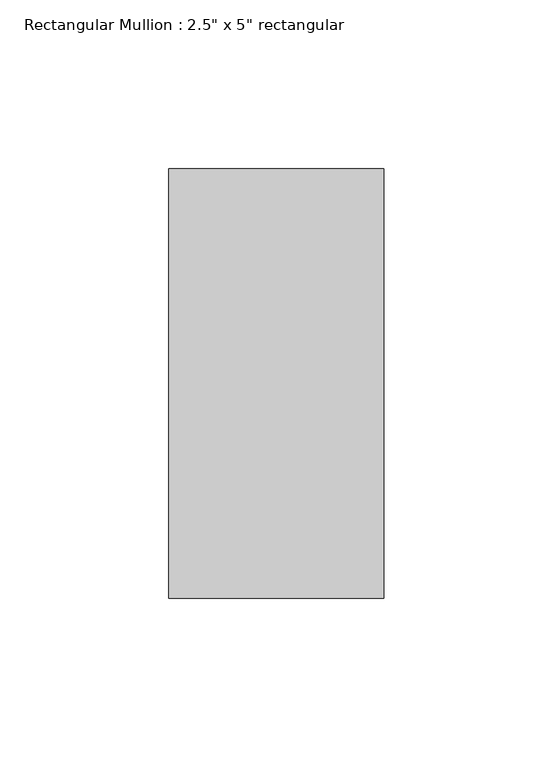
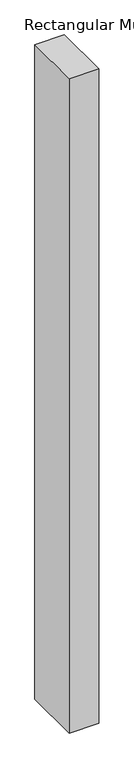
"""IFC4 building model written with IfcOpenShell, lengths in millimetres: member geometry."""

from ifc_helpers import new_model, si_unit, frame, origin, place, context, project, spatial, polyline, outline, extrude, source, transform, mapped, element, save


def member_b964ebf8(model_context):
    return source(origin(), model_context, "Body", "SweptSolid", [
        extrude(outline(polyline([(0.0, 63.5), (0.0, -63.5), (-63.5, -63.5), (-63.5, 63.5), (0.0, 63.5)])), frame((0.0, 0.0, -1485.9), z_axis=(0.0, 0.0, 1.0), x_axis=(1.0, 0.0, 0.0)), (0.0, 0.0, 1.0), 1485.9),
    ])


if __name__ == "__main__":
    model = new_model("IFC4")
    model_context = context("Model", 3, world=origin())
    ifc_project = project(units=[si_unit("LENGTHUNIT", "METRE", prefix="MILLI")], contexts=[model_context])
    site = spatial("IfcSite", under=ifc_project)
    building = spatial("IfcBuilding", under=site)
    placement = place(None, origin())
    member_shape = member_b964ebf8(model_context)
    element("IfcMember", 1, ObjectType="Rectangular Mullion : 2.5\" x 5\" rectangular", at=placement, inside=building, context=model_context, shape_type="MappedRepresentation", body=[
        mapped(member_shape, transform((0.0, 0.0, 0.0), x_axis=(1.0, 0.0, 0.0), y_axis=(0.0, 1.0, 0.0), z_axis=(0.0, 0.0, 1.0))),
    ])
    save(model, "model.ifc")
